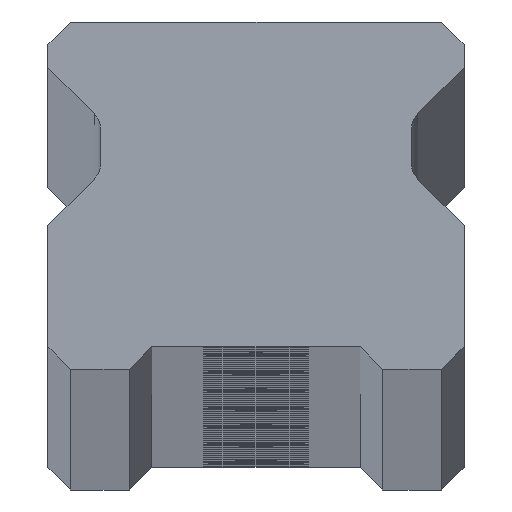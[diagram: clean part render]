
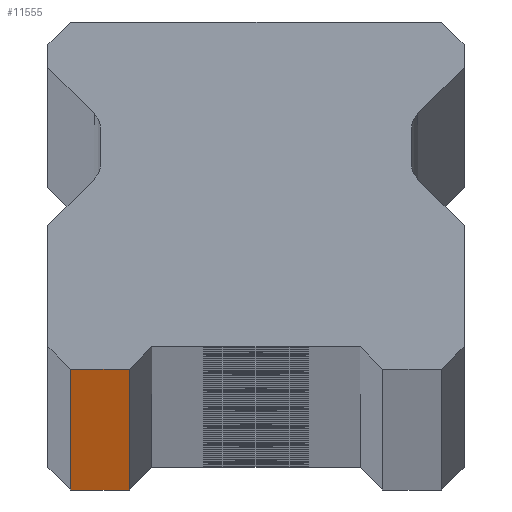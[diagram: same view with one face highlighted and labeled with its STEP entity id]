
A CAD part, top view. The second image highlights one B-rep face of the part: STEP entity #11555.
In plain terms, the highlighted planar face has unit normal (0, -1, 0).
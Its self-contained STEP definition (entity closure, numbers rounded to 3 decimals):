
#139 = ORIENTED_EDGE ( 'NONE', *, *, #7651, .T. ) ;
#378 = CARTESIAN_POINT ( 'NONE',  ( 11.5, 0., -1910. ) ) ;
#408 = LINE ( 'NONE', #378, #10492 ) ;
#485 = LINE ( 'NONE', #3407, #10866 ) ;
#726 = CARTESIAN_POINT ( 'NONE',  ( -10.25, 0., 1910. ) ) ;
#741 = VERTEX_POINT ( 'NONE', #4770 ) ;
#1289 = DIRECTION ( 'NONE',  ( 0., 0., -1. ) ) ;
#1356 = VECTOR ( 'NONE', #8400, 1000. ) ;
#2144 = ORIENTED_EDGE ( 'NONE', *, *, #4981, .T. ) ;
#2838 = ORIENTED_EDGE ( 'NONE', *, *, #11001, .T. ) ;
#3081 = DIRECTION ( 'NONE',  ( 1., 0., 0. ) ) ;
#3239 = DIRECTION ( 'NONE',  ( -1., 0., 0. ) ) ;
#3407 = CARTESIAN_POINT ( 'NONE',  ( -10.25, 0., 1910. ) ) ;
#3637 = EDGE_LOOP ( 'NONE', ( #2838, #2144, #7026, #139 ) ) ;
#4266 = DIRECTION ( 'NONE',  ( 1., 0., 0. ) ) ;
#4770 = CARTESIAN_POINT ( 'NONE',  ( -10.25, 0., -1910. ) ) ;
#4799 = VERTEX_POINT ( 'NONE', #6751 ) ;
#4981 = EDGE_CURVE ( 'NONE', #4799, #6860, #12329, .T. ) ;
#6037 = PLANE ( 'NONE',  #9070 ) ;
#6547 = EDGE_CURVE ( 'NONE', #10035, #6860, #6804, .T. ) ;
#6751 = CARTESIAN_POINT ( 'NONE',  ( -7., 0., -1910. ) ) ;
#6804 = LINE ( 'NONE', #9916, #11500 ) ;
#6860 = VERTEX_POINT ( 'NONE', #7521 ) ;
#7026 = ORIENTED_EDGE ( 'NONE', *, *, #6547, .F. ) ;
#7089 = DIRECTION ( 'NONE',  ( 0., 1., 0. ) ) ;
#7521 = CARTESIAN_POINT ( 'NONE',  ( -7., 0., 1910. ) ) ;
#7651 = EDGE_CURVE ( 'NONE', #10035, #741, #485, .T. ) ;
#8400 = DIRECTION ( 'NONE',  ( 0., 0., 1. ) ) ;
#9070 = AXIS2_PLACEMENT_3D ( 'NONE', #11891, #7089, #3239 ) ;
#9916 = CARTESIAN_POINT ( 'NONE',  ( 11.5, 0., 1910. ) ) ;
#10035 = VERTEX_POINT ( 'NONE', #726 ) ;
#10492 = VECTOR ( 'NONE', #4266, 1000. ) ;
#10866 = VECTOR ( 'NONE', #1289, 1000. ) ;
#11001 = EDGE_CURVE ( 'NONE', #741, #4799, #408, .T. ) ;
#11342 = CARTESIAN_POINT ( 'NONE',  ( -7., 0., -1910. ) ) ;
#11500 = VECTOR ( 'NONE', #3081, 1000. ) ;
#11555 = ADVANCED_FACE ( 'NONE', ( #12297 ), #6037, .F. ) ;
#11891 = CARTESIAN_POINT ( 'NONE',  ( 11.5, 0., 1910. ) ) ;
#12297 = FACE_OUTER_BOUND ( 'NONE', #3637, .T. ) ;
#12329 = LINE ( 'NONE', #11342, #1356 ) ;
